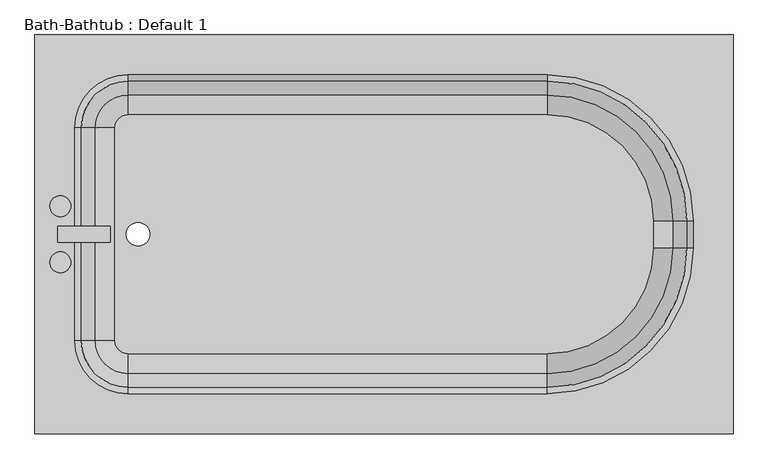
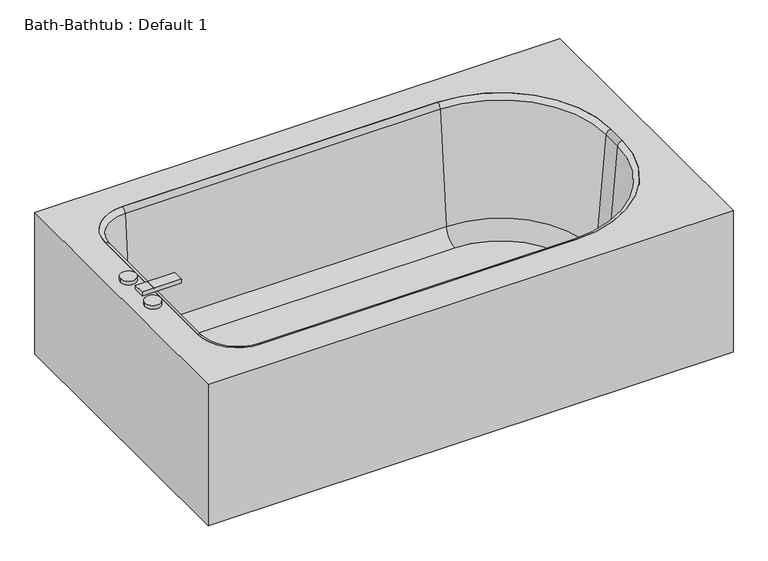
"""IFC4 building model written with IfcOpenShell, lengths in millimetres: flow terminal geometry, Bath-Bathtub : Default 1."""

from ifc_helpers import new_model, si_unit, point, frame, frame_2d, origin, place, context, project, spatial, polyline, circle_curve, ellipse_curve, trimmed, segment, composite_curve, outline, extrude, source, transform, mapped, element, save
from ifc_brep_helpers import plane_surface, cylinder_surface, revolved_surface, advanced_brep


def bath_bathtub_default_1_21554224(model_context):
    return source(origin(), model_context, "Body", "SolidModel", [
        advanced_brep(
        [(223.8495743, -844.55, 380.0), (223.8495743, -82.55, 380.0), (-1110.6029687, -82.55, 380.0), (-1110.6029687, -844.55, 380.0), (-932.8029687, -768.35, 380.0), (-1034.4029687, -666.75, 380.0), (-1034.4029687, -260.35, 380.0), (-932.8029687, -158.75, 380.0), (-131.7504257, -158.75, 380.0), (147.6495743, -438.15, 380.0), (147.6495743, -488.95, 380.0), (-131.7504257, -768.35, 380.0), (204.7995743, -825.5, 360.95), (-1091.5529687, -825.5, 360.95), (-1091.5529687, -101.6, 360.95), (204.7995743, -101.6, 360.95), (-932.8029687, -768.35, 360.95), (-131.7504257, -768.35, 360.95), (147.6495743, -488.95, 360.95), (147.6495743, -438.15, 360.95), (-131.7504257, -158.75, 360.95), (-932.8029687, -158.75, 360.95), (-1034.4029687, -260.35, 360.95), (-1034.4029687, -666.75, 360.95), (-1110.6029687, -844.55, 0.0), (223.8495743, -844.55, 0.0), (-1110.6029687, -82.55, 0.0), (223.8495743, -82.55, 0.0), (204.7995743, -825.5, 0.0), (204.7995743, -101.6, 0.0), (-1091.5529687, -101.6, 0.0), (-1091.5529687, -825.5, 0.0)],
        [
            (0, 1),
            (1, 2),
            (2, 3),
            (3, 0),
            (4, 5, circle_curve(frame((-932.8029687, -666.75, 380.0), z_axis=(0.0, 0.0, -1.0), x_axis=(0.0, -1.0, 0.0)), 101.6)),
            (5, 6),
            (6, 7, circle_curve(frame((-932.8029687, -260.35, 380.0), z_axis=(0.0, 0.0, -1.0), x_axis=(0.0, -1.0, 0.0)), 101.6)),
            (7, 8),
            (8, 9, circle_curve(frame((-131.7504257, -438.15, 380.0), z_axis=(0.0, 0.0, -1.0), x_axis=(0.0, -1.0, 0.0)), 279.4)),
            (9, 10),
            (10, 11, circle_curve(frame((-131.7504257, -488.95, 380.0), z_axis=(0.0, 0.0, -1.0), x_axis=(0.0, -1.0, 0.0)), 279.4)),
            (11, 4),
            (12, 13),
            (13, 14),
            (14, 15),
            (15, 12),
            (16, 17),
            (17, 18, circle_curve(frame((-131.7504257, -488.95, 360.95), z_axis=(0.0, 0.0, 1.0), x_axis=(0.0, -1.0, 0.0)), 279.4)),
            (18, 19),
            (19, 20, circle_curve(frame((-131.7504257, -438.15, 360.95), z_axis=(0.0, 0.0, 1.0), x_axis=(0.0, -1.0, 0.0)), 279.4)),
            (20, 21),
            (21, 22, circle_curve(frame((-932.8029687, -260.35, 360.95), z_axis=(0.0, 0.0, 1.0), x_axis=(0.0, -1.0, 0.0)), 101.6)),
            (22, 23),
            (23, 16, circle_curve(frame((-932.8029687, -666.75, 360.95), z_axis=(0.0, 0.0, 1.0), x_axis=(0.0, -1.0, 0.0)), 101.6)),
            (3, 24),
            (24, 25),
            (25, 0),
            (2, 26),
            (26, 24),
            (1, 27),
            (27, 26),
            (25, 27),
            (11, 17),
            (16, 4),
            (10, 18),
            (9, 19),
            (8, 20),
            (7, 21),
            (6, 22),
            (5, 23),
            (28, 29),
            (29, 30),
            (30, 31),
            (31, 28),
            (28, 12),
            (15, 29),
            (14, 30),
            (13, 31),
        ],
        [
            plane_surface(frame((-1110.6029687, -844.55, 380.0), z_axis=(0.0, 0.0, 1.0), x_axis=(-1.0, 0.0, 0.0))),
            plane_surface(frame((-1110.6029687, -844.55, 360.95), z_axis=(0.0, 0.0, -1.0), x_axis=(1.0, 0.0, 0.0))),
            plane_surface(frame((223.8495743, -844.55, 380.0), z_axis=(0.0, -1.0, 0.0), x_axis=(0.0, 0.0, -1.0))),
            plane_surface(frame((-1110.6029687, -844.55, 380.0), z_axis=(-1.0, 0.0, 0.0), x_axis=(0.0, 0.0, -1.0))),
            plane_surface(frame((-1110.6029687, -82.55, 380.0), z_axis=(0.0, 1.0, 0.0), x_axis=(0.0, 0.0, -1.0))),
            plane_surface(frame((223.8495743, -82.55, 380.0), z_axis=(1.0, 0.0, 0.0), x_axis=(0.0, 0.0, -1.0))),
            plane_surface(frame((-932.8029687, -768.35, 380.0), z_axis=(0.0, 1.0, 0.0), x_axis=(0.0, 0.0, -1.0))),
            revolved_surface(polyline([(-131.7504257, -768.3499999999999, 360.95), (-131.7504257, -768.3499999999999, 380.0)]), (-131.7504257, -488.95, 380.0), (0.0, 0.0, -1.0)),
            plane_surface(frame((147.6495743, -488.95, 380.0), z_axis=(-1.0, 0.0, 0.0), x_axis=(0.0, 0.0, -1.0))),
            revolved_surface(polyline([(-131.7504257, -717.55, 360.95), (-131.7504257, -717.55, 380.0)]), (-131.7504257, -438.15, 380.0), (0.0, 0.0, -1.0)),
            plane_surface(frame((-131.7504257, -158.75, 380.0), z_axis=(0.0, -1.0, 0.0), x_axis=(0.0, 0.0, -1.0))),
            revolved_surface(polyline([(-932.8029687, -361.95000000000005, 360.95), (-932.8029687, -361.95000000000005, 380.0)]), (-932.8029687, -260.35, 380.0), (0.0, 0.0, -1.0)),
            plane_surface(frame((-1034.4029687, -260.35, 380.0), z_axis=(1.0, 0.0, 0.0), x_axis=(0.0, 0.0, -1.0))),
            revolved_surface(polyline([(-932.8029687, -768.35, 360.95), (-932.8029687, -768.35, 380.0)]), (-932.8029687, -666.75, 380.0), (0.0, 0.0, -1.0)),
            plane_surface(frame((-1110.6029687, -844.55, 0.0), z_axis=(0.0, 0.0, -1.0), x_axis=(1.0, 0.0, 0.0))),
            plane_surface(frame((204.7995743, -825.5, 360.95), z_axis=(-1.0, 0.0, 0.0), x_axis=(0.0, 0.0, -1.0))),
            plane_surface(frame((204.7995743, -101.6, 360.95), z_axis=(0.0, -1.0, 0.0), x_axis=(0.0, 0.0, -1.0))),
            plane_surface(frame((-1091.5529687, -101.6, 360.95), z_axis=(1.0, 0.0, 0.0), x_axis=(0.0, 0.0, -1.0))),
            plane_surface(frame((-1091.5529687, -825.5, 360.95), z_axis=(0.0, 1.0, 0.0), x_axis=(0.0, 0.0, -1.0))),
        ],
        [
            (0, [[1, 2, 3, 4], [5, 6, 7, 8, 9, 10, 11, 12]]),
            (1, [[13, 14, 15, 16], [17, 18, 19, 20, 21, 22, 23, 24]]),
            (2, [[25, 26, 27, -4]]),
            (3, [[28, 29, -25, -3]]),
            (4, [[30, 31, -28, -2]]),
            (5, [[32, -30, -1, -27]]),
            (6, [[33, -17, 34, -12]]),
            (7, [[35, -18, -33, -11]]),
            (8, [[36, -19, -35, -10]]),
            (9, [[37, -20, -36, -9]]),
            (10, [[38, -21, -37, -8]]),
            (11, [[39, -22, -38, -7]]),
            (12, [[40, -23, -39, -6]]),
            (13, [[-34, -24, -40, -5]]),
            (14, [[-26, -29, -31, -32], [41, 42, 43, 44]]),
            (15, [[45, -16, 46, -41]]),
            (16, [[-46, -15, 47, -42]]),
            (17, [[-47, -14, 48, -43]]),
            (18, [[-48, -13, -45, -44]]),
        ],
    ),
        extrude(outline(composite_curve([segment(polyline([(-131.7504257, -691.7464741), (-932.8029687, -691.7464741)]), True, "CONTINUOUS"), segment(trimmed(circle_curve(frame_2d((-932.8029687, -666.75)), 24.9964741), [point((-932.8029687, -691.7464741))], [point((-957.7994428, -666.75))], False, "CARTESIAN"), True, "CONTINUOUS"), segment(polyline([(-957.7994428, -666.75), (-957.7994428, -260.35)]), True, "CONTINUOUS"), segment(trimmed(circle_curve(frame_2d((-932.8029687, -260.35)), 24.9964741), [point((-957.7994428, -260.35))], [point((-932.8029687, -235.3535259))], False, "CARTESIAN"), True, "CONTINUOUS"), segment(polyline([(-932.8029687, -235.3535259), (-131.7504257, -235.3535259)]), True, "CONTINUOUS"), segment(trimmed(circle_curve(frame_2d((-131.7504257, -438.15)), 202.7964741), [point((-131.7504257, -235.3535259))], [point((71.0460484, -438.15))], False, "CARTESIAN"), True, "CONTINUOUS"), segment(polyline([(71.0460484, -438.15), (71.0460484, -488.95)]), True, "CONTINUOUS"), segment(trimmed(circle_curve(frame_2d((-131.7504257, -488.95)), 202.7964741), [point((71.0460484, -488.95))], [point((-131.7504257, -691.7464741))], False, "CARTESIAN"), True, "CONTINUOUS")], self_intersect=False), holes=[composite_curve([segment(trimmed(circle_curve(frame_2d((-913.5971625, -463.55)), 22.225), [point((-913.5971625, -485.775))], [point((-913.5971625, -441.325))], True, "CARTESIAN"), True, "CONTINUOUS"), segment(trimmed(circle_curve(frame_2d((-913.5971625, -463.55)), 22.225), [point((-913.5971625, -441.325))], [point((-913.5971625, -485.775))], True, "CARTESIAN"), True, "CONTINUOUS")], self_intersect=False)]), frame((0.0, 0.0, 15.863573), z_axis=(0.0, 0.0, 1.0), x_axis=(1.0, 0.0, 0.0)), (0.0, 0.0, 1.0), 19.05),
        advanced_brep(
        [(-995.7544608, -666.75, 69.6929392), (-1021.9249722, -666.75, 368.8232535), (-932.8029687, -755.8720035, 368.8232535), (-932.8029687, -729.7014921, 69.6929392), (-957.7994428, -666.75, 34.913573), (-932.8029687, -691.7464741, 34.913573), (-957.7994428, -666.75, 15.863573), (-932.8029687, -691.7464741, 15.863573), (-1034.4029687, -666.75, 15.863573), (-932.8029687, -768.35, 15.863573), (-1034.4029687, -666.75, 380.0), (-932.8029687, -768.35, 380.0), (-995.7544608, -260.35, 69.6929392), (-1021.9249722, -260.35, 368.8232535), (-957.7994428, -260.35, 34.913573), (-957.7994428, -260.35, 15.863573), (-1034.4029687, -260.35, 15.863573), (-1034.4029687, -260.35, 380.0), (-932.8029687, -197.3985079, 69.6929392), (-932.8029687, -171.2279965, 368.8232535), (-932.8029687, -235.3535259, 34.913573), (-932.8029687, -235.3535259, 15.863573), (-932.8029687, -158.75, 15.863573), (-932.8029687, -158.75, 380.0), (-131.7504257, -197.3985079, 69.6929392), (-131.7504257, -171.2279965, 368.8232535), (-131.7504257, -235.3535259, 34.913573), (-131.7504257, -235.3535259, 15.863573), (-131.7504257, -158.75, 15.863573), (-131.7504257, -158.75, 380.0), (109.0010664, -438.15, 69.6929392), (135.1715778, -438.15, 368.8232535), (71.0460484, -438.15, 34.913573), (71.0460484, -438.15, 15.863573), (147.6495743, -438.15, 15.863573), (147.6495743, -438.15, 380.0), (109.0010664, -488.95, 69.6929392), (135.1715778, -488.95, 368.8232535), (71.0460484, -488.95, 34.913573), (71.0460484, -488.95, 15.863573), (147.6495743, -488.95, 15.863573), (147.6495743, -488.95, 380.0), (-131.7504257, -729.7014921, 69.6929392), (-131.7504257, -755.8720035, 368.8232535), (-131.7504257, -691.7464741, 34.913573), (-131.7504257, -691.7464741, 15.863573), (-131.7504257, -768.35, 15.863573), (-131.7504257, -768.35, 380.0)],
        [
            (0, 1),
            (1, 2, circle_curve(frame((-932.8029687, -666.75, 368.8232535), z_axis=(0.0, 0.0, 1.0), x_axis=(0.0, -1.0, 0.0)), 89.1220035)),
            (2, 3),
            (3, 0, circle_curve(frame((-932.8029687, -666.75, 69.6929392), z_axis=(0.0, 0.0, -1.0), x_axis=(0.0, -1.0, 0.0)), 62.9514921)),
            (4, 0, circle_curve(frame((-957.7994428, -666.75, 73.013573), z_axis=(0.0, 1.0, 0.0), x_axis=(1.0, 0.0, 0.0)), 38.1)),
            (3, 5, circle_curve(frame((-932.8029687, -691.7464741, 73.013573), z_axis=(1.0, 0.0, 0.0), x_axis=(0.0, 1.0, 0.0)), 38.1)),
            (5, 4, circle_curve(frame((-932.8029687, -666.75, 34.913573), z_axis=(0.0, 0.0, -1.0), x_axis=(0.0, -1.0, 0.0)), 24.9964741)),
            (6, 4),
            (5, 7),
            (7, 6, circle_curve(frame((-932.8029687, -666.75, 15.863573), z_axis=(0.0, 0.0, -1.0), x_axis=(0.0, -1.0, 0.0)), 24.9964741)),
            (8, 6),
            (7, 9),
            (9, 8, circle_curve(frame((-932.8029687, -666.75, 15.863573), z_axis=(0.0, 0.0, -1.0), x_axis=(0.0, -1.0, 0.0)), 101.6)),
            (10, 8),
            (9, 11),
            (11, 10, circle_curve(frame((-932.8029687, -666.75, 380.0), z_axis=(0.0, 0.0, -1.0), x_axis=(0.0, -1.0, 0.0)), 101.6)),
            (1, 10, circle_curve(frame((-1034.4029687, -666.75, 367.4462547), z_axis=(0.0, -1.0, 0.0), x_axis=(1.0, 0.0, 0.0)), 12.5537453)),
            (11, 2, circle_curve(frame((-932.8029687, -768.35, 367.4462547), z_axis=(-1.0, 0.0, 0.0), x_axis=(0.0, 1.0, 0.0)), 12.5537453)),
            (0, 12),
            (12, 13),
            (13, 1),
            (4, 14),
            (14, 12, circle_curve(frame((-957.7994428, -260.35, 73.013573), z_axis=(0.0, 1.0, 0.0), x_axis=(1.0, 0.0, 0.0)), 38.1)),
            (6, 15),
            (15, 14),
            (8, 16),
            (16, 15),
            (10, 17),
            (17, 16),
            (13, 17, circle_curve(frame((-1034.4029687, -260.35, 367.4462547), z_axis=(0.0, -1.0, 0.0), x_axis=(1.0, 0.0, 0.0)), 12.5537453)),
            (18, 19),
            (19, 13, circle_curve(frame((-932.8029687, -260.35, 368.8232535), z_axis=(0.0, 0.0, 1.0), x_axis=(-1.0, 0.0, 0.0)), 89.1220035)),
            (12, 18, circle_curve(frame((-932.8029687, -260.35, 69.6929392), z_axis=(0.0, 0.0, -1.0), x_axis=(-1.0, 0.0, 0.0)), 62.9514921)),
            (20, 18, circle_curve(frame((-932.8029687, -235.3535259, 73.013573), z_axis=(1.0, 0.0, 0.0), x_axis=(0.0, -1.0, 0.0)), 38.1)),
            (14, 20, circle_curve(frame((-932.8029687, -260.35, 34.913573), z_axis=(0.0, 0.0, -1.0), x_axis=(-1.0, 0.0, 0.0)), 24.9964741)),
            (21, 20),
            (15, 21, circle_curve(frame((-932.8029687, -260.35, 15.863573), z_axis=(0.0, 0.0, -1.0), x_axis=(-1.0, 0.0, 0.0)), 24.9964741)),
            (22, 21),
            (16, 22, circle_curve(frame((-932.8029687, -260.35, 15.863573), z_axis=(0.0, 0.0, -1.0), x_axis=(-1.0, 0.0, 0.0)), 101.6)),
            (23, 22),
            (17, 23, circle_curve(frame((-932.8029687, -260.35, 380.0), z_axis=(0.0, 0.0, -1.0), x_axis=(-1.0, 0.0, 0.0)), 101.6)),
            (19, 23, circle_curve(frame((-932.8029687, -158.75, 367.4462547), z_axis=(-1.0, 0.0, 0.0), x_axis=(0.0, -1.0, 0.0)), 12.5537453)),
            (18, 24),
            (24, 25),
            (25, 19),
            (20, 26),
            (26, 24, circle_curve(frame((-131.7504257, -235.3535259, 73.013573), z_axis=(1.0, 0.0, 0.0), x_axis=(0.0, -1.0, 0.0)), 38.1)),
            (21, 27),
            (27, 26),
            (22, 28),
            (28, 27),
            (23, 29),
            (29, 28),
            (25, 29, circle_curve(frame((-131.7504257, -158.75, 367.4462547), z_axis=(-1.0, 0.0, 0.0), x_axis=(0.0, -1.0, 0.0)), 12.5537453)),
            (30, 31),
            (31, 25, circle_curve(frame((-131.7504257, -438.15, 368.8232535), z_axis=(0.0, 0.0, 1.0), x_axis=(0.0, 1.0, 0.0)), 266.9220035)),
            (24, 30, circle_curve(frame((-131.7504257, -438.15, 69.6929392), z_axis=(0.0, 0.0, -1.0), x_axis=(0.0, 1.0, 0.0)), 240.7514921)),
            (32, 30, circle_curve(frame((71.0460484, -438.15, 73.013573), z_axis=(0.0, -1.0, 0.0), x_axis=(-1.0, 0.0, 0.0)), 38.1)),
            (26, 32, circle_curve(frame((-131.7504257, -438.15, 34.913573), z_axis=(0.0, 0.0, -1.0), x_axis=(0.0, 1.0, 0.0)), 202.7964741)),
            (33, 32),
            (27, 33, circle_curve(frame((-131.7504257, -438.15, 15.863573), z_axis=(0.0, 0.0, -1.0), x_axis=(0.0, 1.0, 0.0)), 202.7964741)),
            (34, 33),
            (28, 34, circle_curve(frame((-131.7504257, -438.15, 15.863573), z_axis=(0.0, 0.0, -1.0), x_axis=(0.0, 1.0, 0.0)), 279.4)),
            (35, 34),
            (29, 35, circle_curve(frame((-131.7504257, -438.15, 380.0), z_axis=(0.0, 0.0, -1.0), x_axis=(0.0, 1.0, 0.0)), 279.4)),
            (31, 35, circle_curve(frame((147.6495743, -438.15, 367.4462547), z_axis=(0.0, 1.0, 0.0), x_axis=(-1.0, 0.0, 0.0)), 12.5537453)),
            (30, 36),
            (36, 37),
            (37, 31),
            (32, 38),
            (38, 36, circle_curve(frame((71.0460484, -488.95, 73.013573), z_axis=(0.0, -1.0, 0.0), x_axis=(-1.0, 0.0, 0.0)), 38.1)),
            (33, 39),
            (39, 38),
            (34, 40),
            (40, 39),
            (35, 41),
            (41, 40),
            (37, 41, circle_curve(frame((147.6495743, -488.95, 367.4462547), z_axis=(0.0, 1.0, 0.0), x_axis=(-1.0, 0.0, 0.0)), 12.5537453)),
            (42, 43),
            (43, 37, circle_curve(frame((-131.7504257, -488.95, 368.8232535), z_axis=(0.0, 0.0, 1.0), x_axis=(1.0, 0.0, 0.0)), 266.9220035)),
            (36, 42, circle_curve(frame((-131.7504257, -488.95, 69.6929392), z_axis=(0.0, 0.0, -1.0), x_axis=(1.0, 0.0, 0.0)), 240.7514921)),
            (44, 42, circle_curve(frame((-131.7504257, -691.7464741, 73.013573), z_axis=(-1.0, 0.0, 0.0), x_axis=(0.0, 1.0, 0.0)), 38.1)),
            (38, 44, circle_curve(frame((-131.7504257, -488.95, 34.913573), z_axis=(0.0, 0.0, -1.0), x_axis=(1.0, 0.0, 0.0)), 202.7964741)),
            (45, 44),
            (39, 45, circle_curve(frame((-131.7504257, -488.95, 15.863573), z_axis=(0.0, 0.0, -1.0), x_axis=(1.0, 0.0, 0.0)), 202.7964741)),
            (46, 45),
            (40, 46, circle_curve(frame((-131.7504257, -488.95, 15.863573), z_axis=(0.0, 0.0, -1.0), x_axis=(1.0, 0.0, 0.0)), 279.4)),
            (47, 46),
            (41, 47, circle_curve(frame((-131.7504257, -488.95, 380.0), z_axis=(0.0, 0.0, -1.0), x_axis=(1.0, 0.0, 0.0)), 279.4)),
            (43, 47, circle_curve(frame((-131.7504257, -768.35, 367.4462547), z_axis=(1.0, 0.0, 0.0), x_axis=(0.0, 1.0, 0.0)), 12.5537453)),
            (42, 3),
            (2, 43),
            (44, 5),
            (45, 7),
            (46, 9),
            (47, 11),
        ],
        [
            revolved_surface(polyline([(-932.8029687, -755.8720035, 368.8232535), (-932.8029687, -729.7014921, 69.6929392)]), (-932.8029687, -666.75, 380.0), (0.0, 0.0, 1.0)),
            revolved_surface(trimmed(ellipse_curve(frame((-932.8029687, -691.7464741, 73.013573), z_axis=(1.0, 0.0, 0.0), x_axis=(0.0, 1.0, 0.0)), 38.1, 38.1), [point((-932.8029687, -729.7014921, 69.6929392))], [point((-932.8029687, -691.7464741, 34.913573))], True, "CARTESIAN"), (-932.8029687, -666.75, 380.0), (0.0, 0.0, 1.0)),
            revolved_surface(polyline([(-932.8029687, -691.7464741, 34.913572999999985), (-932.8029687, -691.7464741, 15.863572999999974)]), (-932.8029687, -666.75, 380.0), (0.0, 0.0, 1.0)),
            plane_surface(frame((-932.8029687, -666.75, 15.863573), z_axis=(0.0, 0.0, -1.0), x_axis=(0.0, -1.0, 0.0))),
            cylinder_surface(frame((-932.8029687, -666.75, 380.0), z_axis=(0.0, 0.0, 1.0), x_axis=(0.0, -1.0, 0.0)), 101.6),
            revolved_surface(trimmed(ellipse_curve(frame((-932.8029687, -768.35, 367.4462547), z_axis=(-1.0, 0.0, 0.0), x_axis=(0.0, 1.0, 0.0)), 12.5537453, 12.5537453), [point((-932.8029687, -768.35, 380.0))], [point((-932.8029687, -755.8720035, 368.8232535))], True, "CARTESIAN"), (-932.8029687, -666.75, 380.0), (0.0, 0.0, 1.0)),
            plane_surface(frame((-1021.9249722, -666.75, 368.8232535), z_axis=(0.9961946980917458, 0.0, 0.08715574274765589), x_axis=(0.0, 1.0, 0.0))),
            revolved_surface(polyline([(-919.6994427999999, -260.35, 73.013573), (-919.6994427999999, -666.75, 73.013573)]), (-957.7994428, -666.75, 73.013573), (0.0, 1.0, 0.0)),
            plane_surface(frame((-957.7994428, -666.75, 34.913573), z_axis=(1.0, 0.0, 0.0), x_axis=(0.0, 1.0, 0.0))),
            plane_surface(frame((-957.7994428, -666.75, 15.863573), z_axis=(0.0, 0.0, -1.0), x_axis=(0.0, 1.0, 0.0))),
            plane_surface(frame((-1034.4029687, -666.75, 15.863573), z_axis=(-1.0, 0.0, 0.0), x_axis=(0.0, 1.0, 0.0))),
            cylinder_surface(frame((-1034.4029687, -666.75, 367.4462547), z_axis=(0.0, -1.0, 0.0), x_axis=(1.0, 0.0, 0.0)), 12.5537453),
            revolved_surface(polyline([(-1021.9249722, -260.35, 368.8232535), (-995.7544608, -260.35, 69.6929392)]), (-932.8029687, -260.35, 380.0), (0.0, 0.0, 1.0)),
            revolved_surface(trimmed(ellipse_curve(frame((-957.7994428, -260.35, 73.013573), z_axis=(0.0, -1.0, 0.0), x_axis=(1.0, 0.0, 0.0)), 38.1, 38.1), [point((-995.7544608, -260.35, 69.6929392))], [point((-957.7994428, -260.35, 34.913573))], True, "CARTESIAN"), (-932.8029687, -260.35, 380.0), (0.0, 0.0, 1.0)),
            revolved_surface(polyline([(-957.7994428, -260.35, 34.913572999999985), (-957.7994428, -260.35, 15.863572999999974)]), (-932.8029687, -260.35, 380.0), (0.0, 0.0, 1.0)),
            plane_surface(frame((-932.8029687, -260.35, 15.863573), z_axis=(0.0, 0.0, -1.0), x_axis=(-1.0, 0.0, 0.0))),
            cylinder_surface(frame((-932.8029687, -260.35, 380.0), z_axis=(0.0, 0.0, 1.0), x_axis=(-1.0, 0.0, 0.0)), 101.6),
            revolved_surface(trimmed(ellipse_curve(frame((-1034.4029687, -260.35, 367.4462547), z_axis=(0.0, 1.0, 0.0), x_axis=(1.0, 0.0, 0.0)), 12.5537453, 12.5537453), [point((-1034.4029687, -260.35, 380.0))], [point((-1021.9249722, -260.35, 368.8232535))], True, "CARTESIAN"), (-932.8029687, -260.35, 380.0), (0.0, 0.0, 1.0)),
            plane_surface(frame((-932.8029687, -171.2279965, 368.8232535), z_axis=(0.0, -0.9961946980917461, 0.08715574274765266), x_axis=(1.0, 0.0, 0.0))),
            revolved_surface(polyline([(-131.75042569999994, -273.4535259, 73.013573), (-932.8029687, -273.4535259, 73.013573)]), (-932.8029687, -235.3535259, 73.013573), (1.0, 0.0, 0.0)),
            plane_surface(frame((-932.8029687, -235.3535259, 34.913573), z_axis=(0.0, -1.0, 0.0), x_axis=(1.0, 0.0, 0.0))),
            plane_surface(frame((-932.8029687, -235.3535259, 15.863573), z_axis=(0.0, 0.0, -1.0), x_axis=(1.0, 0.0, 0.0))),
            plane_surface(frame((-932.8029687, -158.75, 15.863573), z_axis=(0.0, 1.0, 0.0), x_axis=(1.0, 0.0, 0.0))),
            cylinder_surface(frame((-932.8029687, -158.75, 367.4462547), z_axis=(-1.0, 0.0, 0.0), x_axis=(0.0, -1.0, 0.0)), 12.5537453),
            revolved_surface(polyline([(-131.7504257, -171.2279965, 368.8232535), (-131.7504257, -197.3985079, 69.6929392)]), (-131.7504257, -438.15, 380.0), (0.0, 0.0, 1.0)),
            revolved_surface(trimmed(ellipse_curve(frame((-131.7504257, -235.3535259, 73.013573), z_axis=(-1.0, 0.0, 0.0), x_axis=(0.0, -1.0, 0.0)), 38.1, 38.1), [point((-131.7504257, -197.3985079, 69.6929392))], [point((-131.7504257, -235.3535259, 34.913573))], True, "CARTESIAN"), (-131.7504257, -438.15, 380.0), (0.0, 0.0, 1.0)),
            revolved_surface(polyline([(-131.7504257, -235.35352589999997, 34.913572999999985), (-131.7504257, -235.35352589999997, 15.863572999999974)]), (-131.7504257, -438.15, 380.0), (0.0, 0.0, 1.0)),
            plane_surface(frame((-131.7504257, -438.15, 15.863573), z_axis=(0.0, 0.0, -1.0), x_axis=(0.0, 1.0, 0.0))),
            cylinder_surface(frame((-131.7504257, -438.15, 380.0), z_axis=(0.0, 0.0, 1.0), x_axis=(0.0, 1.0, 0.0)), 279.4),
            revolved_surface(trimmed(ellipse_curve(frame((-131.7504257, -158.75, 367.4462547), z_axis=(1.0, 0.0, 0.0), x_axis=(0.0, -1.0, 0.0)), 12.5537453, 12.5537453), [point((-131.7504257, -158.75, 380.0))], [point((-131.7504257, -171.2279965, 368.8232535))], True, "CARTESIAN"), (-131.7504257, -438.15, 380.0), (0.0, 0.0, 1.0)),
            plane_surface(frame((135.1715778, -438.15, 368.8232535), z_axis=(-0.9961946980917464, 0.0, 0.08715574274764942), x_axis=(0.0, -1.0, 0.0))),
            revolved_surface(polyline([(32.9460484, -488.95, 73.013573), (32.9460484, -438.15, 73.013573)]), (71.0460484, -438.15, 73.013573), (0.0, -1.0, 0.0)),
            plane_surface(frame((71.0460484, -438.15, 34.913573), z_axis=(-1.0, 0.0, 0.0), x_axis=(0.0, -1.0, 0.0))),
            plane_surface(frame((71.0460484, -438.15, 15.863573), z_axis=(0.0, 0.0, -1.0), x_axis=(0.0, -1.0, 0.0))),
            plane_surface(frame((147.6495743, -438.15, 15.863573), z_axis=(1.0, 0.0, 0.0), x_axis=(0.0, -1.0, 0.0))),
            cylinder_surface(frame((147.6495743, -438.15, 367.4462547), z_axis=(0.0, 1.0, 0.0), x_axis=(-1.0, 0.0, 0.0)), 12.5537453),
            revolved_surface(polyline([(135.1715778, -488.95, 368.8232535), (109.0010664, -488.95, 69.6929392)]), (-131.7504257, -488.95, 380.0), (0.0, 0.0, 1.0)),
            revolved_surface(trimmed(ellipse_curve(frame((71.0460484, -488.95, 73.013573), z_axis=(0.0, 1.0, 0.0), x_axis=(-1.0, 0.0, 0.0)), 38.1, 38.1), [point((109.0010664, -488.95, 69.6929392))], [point((71.0460484, -488.95, 34.913573))], True, "CARTESIAN"), (-131.7504257, -488.95, 380.0), (0.0, 0.0, 1.0)),
            revolved_surface(polyline([(71.04604840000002, -488.95, 34.913572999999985), (71.04604840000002, -488.95, 15.863572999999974)]), (-131.7504257, -488.95, 380.0), (0.0, 0.0, 1.0)),
            plane_surface(frame((-131.7504257, -488.95, 15.863573), z_axis=(0.0, 0.0, -1.0), x_axis=(1.0, 0.0, 0.0))),
            cylinder_surface(frame((-131.7504257, -488.95, 380.0), z_axis=(0.0, 0.0, 1.0), x_axis=(1.0, 0.0, 0.0)), 279.4),
            revolved_surface(trimmed(ellipse_curve(frame((147.6495743, -488.95, 367.4462547), z_axis=(0.0, -1.0, 0.0), x_axis=(-1.0, 0.0, 0.0)), 12.5537453, 12.5537453), [point((147.6495743, -488.95, 380.0))], [point((135.1715778, -488.95, 368.8232535))], True, "CARTESIAN"), (-131.7504257, -488.95, 380.0), (0.0, 0.0, 1.0)),
            plane_surface(frame((-131.7504257, -755.8720035, 368.8232535), z_axis=(0.0, 0.9961946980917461, 0.08715574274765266), x_axis=(-1.0, 0.0, 0.0))),
            revolved_surface(polyline([(-932.8029687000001, -653.6464741, 73.013573), (-131.7504257, -653.6464741, 73.013573)]), (-131.7504257, -691.7464741, 73.013573), (-1.0, 0.0, 0.0)),
            plane_surface(frame((-131.7504257, -691.7464741, 34.913573), z_axis=(0.0, 1.0, 0.0), x_axis=(-1.0, 0.0, 0.0))),
            plane_surface(frame((-131.7504257, -691.7464741, 15.863573), z_axis=(0.0, 0.0, -1.0), x_axis=(-1.0, 0.0, 0.0))),
            plane_surface(frame((-131.7504257, -768.35, 15.863573), z_axis=(0.0, -1.0, 0.0), x_axis=(-1.0, 0.0, 0.0))),
            cylinder_surface(frame((-131.7504257, -768.35, 367.4462547), z_axis=(1.0, 0.0, 0.0), x_axis=(0.0, 1.0, 0.0)), 12.5537453),
        ],
        [
            (0, [[1, 2, 3, 4]]),
            (1, [[5, -4, 6, 7]]),
            (2, [[8, -7, 9, 10]]),
            (3, [[11, -10, 12, 13]]),
            (4, [[14, -13, 15, 16]]),
            (5, [[17, -16, 18, -2]]),
            (6, [[19, 20, 21, -1]]),
            (7, [[22, 23, -19, -5]]),
            (8, [[24, 25, -22, -8]]),
            (9, [[26, 27, -24, -11]]),
            (10, [[28, 29, -26, -14]]),
            (11, [[-21, 30, -28, -17]]),
            (12, [[31, 32, -20, 33]]),
            (13, [[34, -33, -23, 35]]),
            (14, [[36, -35, -25, 37]]),
            (15, [[38, -37, -27, 39]]),
            (16, [[40, -39, -29, 41]]),
            (17, [[42, -41, -30, -32]]),
            (18, [[43, 44, 45, -31]]),
            (19, [[46, 47, -43, -34]]),
            (20, [[48, 49, -46, -36]]),
            (21, [[50, 51, -48, -38]]),
            (22, [[52, 53, -50, -40]]),
            (23, [[-45, 54, -52, -42]]),
            (24, [[55, 56, -44, 57]]),
            (25, [[58, -57, -47, 59]]),
            (26, [[60, -59, -49, 61]]),
            (27, [[62, -61, -51, 63]]),
            (28, [[64, -63, -53, 65]]),
            (29, [[66, -65, -54, -56]]),
            (30, [[67, 68, 69, -55]]),
            (31, [[70, 71, -67, -58]]),
            (32, [[72, 73, -70, -60]]),
            (33, [[74, 75, -72, -62]]),
            (34, [[76, 77, -74, -64]]),
            (35, [[-69, 78, -76, -66]]),
            (36, [[79, 80, -68, 81]]),
            (37, [[82, -81, -71, 83]]),
            (38, [[84, -83, -73, 85]]),
            (39, [[86, -85, -75, 87]]),
            (40, [[88, -87, -77, 89]]),
            (41, [[90, -89, -78, -80]]),
            (42, [[91, -3, 92, -79]]),
            (43, [[93, -6, -91, -82]]),
            (44, [[94, -9, -93, -84]]),
            (45, [[95, -12, -94, -86]]),
            (46, [[96, -15, -95, -88]]),
            (47, [[-92, -18, -96, -90]]),
        ],
    ),
        extrude(outline(polyline([(-1066.8328759, -478.55), (-1066.8328759, -448.55), (-966.8328759, -448.55), (-966.8328759, -478.55), (-1066.8328759, -478.55)])), frame((0.0, 0.0, 380.0), z_axis=(0.0, 0.0, 1.0), x_axis=(1.0, 0.0, 0.0)), (0.0, 0.0, 1.0), 10.6738596),
        extrude(outline(composite_curve([segment(trimmed(circle_curve(frame_2d((-1061.8660369, -517.2447376)), 20.0), [point((-1041.8660369, -517.2447376))], [point((-1081.8660369, -517.2447376))], False, "CARTESIAN"), True, "CONTINUOUS"), segment(trimmed(circle_curve(frame_2d((-1061.8660369, -517.2447376)), 20.0), [point((-1081.8660369, -517.2447376))], [point((-1041.8660369, -517.2447376))], False, "CARTESIAN"), True, "CONTINUOUS")], self_intersect=False)), frame((0.0, 0.0, 380.0), z_axis=(0.0, 0.0, 1.0), x_axis=(1.0, 0.0, 0.0)), (0.0, 0.0, 1.0), 10.6738596),
        extrude(outline(composite_curve([segment(trimmed(circle_curve(frame_2d((-1061.8660369, -409.8552624)), 20.0), [point((-1041.8660369, -409.8552624))], [point((-1081.8660369, -409.8552624))], False, "CARTESIAN"), True, "CONTINUOUS"), segment(trimmed(circle_curve(frame_2d((-1061.8660369, -409.8552624)), 20.0), [point((-1081.8660369, -409.8552624))], [point((-1041.8660369, -409.8552624))], False, "CARTESIAN"), True, "CONTINUOUS")], self_intersect=False)), frame((0.0, 0.0, 380.0), z_axis=(0.0, 0.0, 1.0), x_axis=(1.0, 0.0, 0.0)), (0.0, 0.0, 1.0), 10.6738596),
    ])


if __name__ == "__main__":
    model = new_model("IFC4")
    model_context = context("Model", 3, world=origin())
    ifc_project = project(units=[si_unit("LENGTHUNIT", "METRE", prefix="MILLI")], contexts=[model_context])
    site = spatial("IfcSite", under=ifc_project)
    building = spatial("IfcBuilding", under=site)
    placement = place(None, origin())
    bath_bathtub_default_1_shape = bath_bathtub_default_1_21554224(model_context)
    element("IfcFlowTerminal", 1, ObjectType="Bath-Bathtub : Default 1", at=placement, inside=building, context=model_context, shape_type="MappedRepresentation", body=[
        mapped(bath_bathtub_default_1_shape, transform((0.0, 0.0, 0.0), x_axis=(1.0, 0.0, 0.0), y_axis=(0.0, 1.0, 0.0), z_axis=(0.0, 0.0, 1.0))),
    ])
    save(model, "model.ifc")
